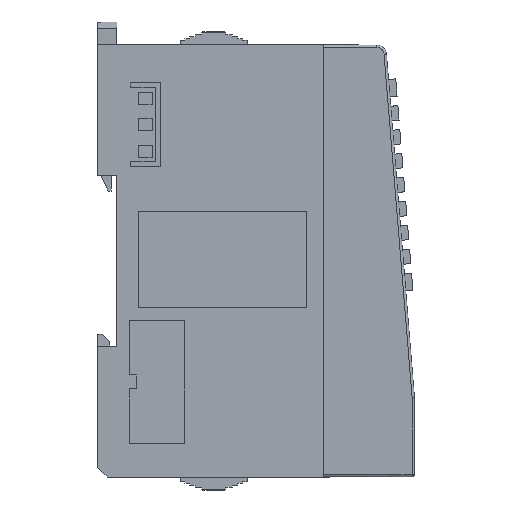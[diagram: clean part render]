
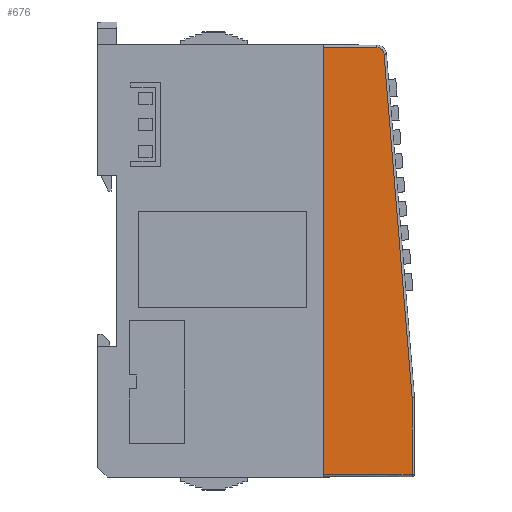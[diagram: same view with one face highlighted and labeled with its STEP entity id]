
A CAD part, front view. The second image highlights one B-rep face of the part: STEP entity #676.
In plain terms, the highlighted planar face has unit normal (0.005, -1, 0).
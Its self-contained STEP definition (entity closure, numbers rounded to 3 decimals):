
#219=CIRCLE('',#12098,1.5);
#676=ADVANCED_FACE('',(#1828),#1283,.T.);
#1283=PLANE('',#12099);
#1828=FACE_OUTER_BOUND('',#2471,.T.);
#2471=EDGE_LOOP('',(#4251,#4252,#4253,#4254,#4255,#4256));
#4251=ORIENTED_EDGE('',*,*,#7893,.F.);
#4252=ORIENTED_EDGE('',*,*,#7894,.T.);
#4253=ORIENTED_EDGE('',*,*,#7895,.F.);
#4254=ORIENTED_EDGE('',*,*,#7896,.F.);
#4255=ORIENTED_EDGE('',*,*,#7897,.F.);
#4256=ORIENTED_EDGE('',*,*,#7878,.T.);
#6574=VERTEX_POINT('',#16940);
#6575=VERTEX_POINT('',#16942);
#6584=VERTEX_POINT('',#16973);
#6585=VERTEX_POINT('',#16977);
#6586=VERTEX_POINT('',#16979);
#6587=VERTEX_POINT('',#16981);
#7878=EDGE_CURVE('',#6575,#6574,#9481,.T.);
#7893=EDGE_CURVE('',#6584,#6574,#9491,.T.);
#7894=EDGE_CURVE('',#6584,#6585,#9492,.T.);
#7895=EDGE_CURVE('',#6586,#6585,#9493,.T.);
#7896=EDGE_CURVE('',#6587,#6586,#219,.T.);
#7897=EDGE_CURVE('',#6575,#6587,#9494,.T.);
#9481=LINE('',#16941,#10975);
#9491=LINE('',#16974,#10985);
#9492=LINE('',#16976,#10986);
#9493=LINE('',#16978,#10987);
#9494=LINE('',#16982,#10988);
#10975=VECTOR('',#13778,1.);
#10985=VECTOR('',#13806,1.);
#10986=VECTOR('',#13809,1.);
#10987=VECTOR('',#13810,1.);
#10988=VECTOR('',#13813,1.);
#12098=AXIS2_PLACEMENT_3D('',#16980,#13811,#13812);
#12099=AXIS2_PLACEMENT_3D('',#16983,#13814,#13815);
#13778=DIRECTION('',(0.,0.,-1.));
#13806=DIRECTION('',(-1.,-0.005,-0.005));
#13809=DIRECTION('',(0.,0.,1.));
#13810=DIRECTION('',(0.081,0.,-0.997));
#13811=DIRECTION('',(-0.005,1.,0.));
#13812=DIRECTION('',(0.005,0.,1.));
#13813=DIRECTION('',(1.,0.005,-0.005));
#13814=DIRECTION('',(0.005,-1.,0.));
#13815=DIRECTION('',(0.,0.,1.));
#16940=CARTESIAN_POINT('',(-247.544,-116.239,189.194));
#16941=CARTESIAN_POINT('',(-247.544,-116.239,278.194));
#16942=CARTESIAN_POINT('',(-247.544,-116.239,278.194));
#16973=CARTESIAN_POINT('',(-229.041,-116.142,189.291));
#16974=CARTESIAN_POINT('',(-229.041,-116.142,189.291));
#16976=CARTESIAN_POINT('',(-229.041,-116.142,189.291));
#16977=CARTESIAN_POINT('',(-229.041,-116.142,205.174));
#16978=CARTESIAN_POINT('',(-234.885,-116.173,276.758));
#16979=CARTESIAN_POINT('',(-234.885,-116.173,276.758));
#16980=CARTESIAN_POINT('',(-236.379,-116.181,276.636));
#16981=CARTESIAN_POINT('',(-236.372,-116.181,278.136));
#16982=CARTESIAN_POINT('',(-247.544,-116.239,278.194));
#16983=CARTESIAN_POINT('',(-247.544,-116.239,279.817));
